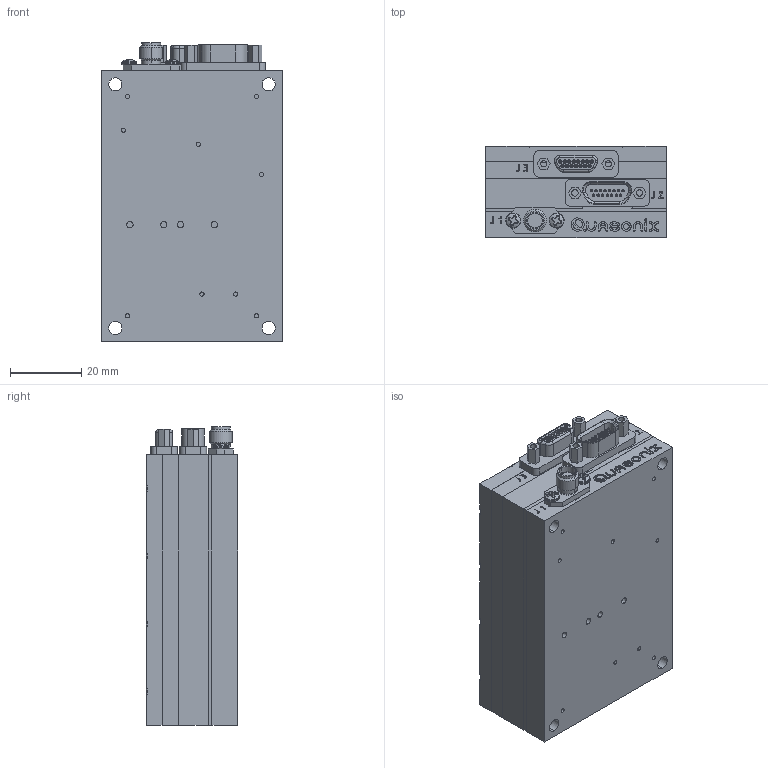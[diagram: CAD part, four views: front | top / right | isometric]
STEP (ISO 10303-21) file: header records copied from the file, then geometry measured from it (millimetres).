
FILE_DESCRIPTION (( 'STEP AP203' ), '1' );
FILE_NAME ('06AD_10-18-13.STEP', '2013-10-18T20:00:06', ( 'Quasonix' ), ( '' ), 'SwSTEP 2.0', 'SolidWorks 2012', '' );
FILE_SCHEMA (( 'CONFIG_CONTROL_DESIGN' ));
Length unit declared in the file: inch
Products named in the file (1): 06AD_10-18-13
Bounding box: 50.8 x 25.7 x 84.14 mm (x, y, z)
Surface area: 25762.9 mm2 (no closed solid volume)
Topology: 0 solids, 66 shells, 907 faces, 2995 edges, 2135 vertices
Faces by surface type: plane 489, cylinder 221, cone 99, bspline 79, torus 15, sphere 4
Entity records: 34743 total; most frequent: CARTESIAN_POINT 8665, DIRECTION 5364, ORIENTED_EDGE 4953, EDGE_CURVE 2983, VERTEX_POINT 2135, AXIS2_PLACEMENT_3D 1908, LINE 1548, VECTOR 1548
